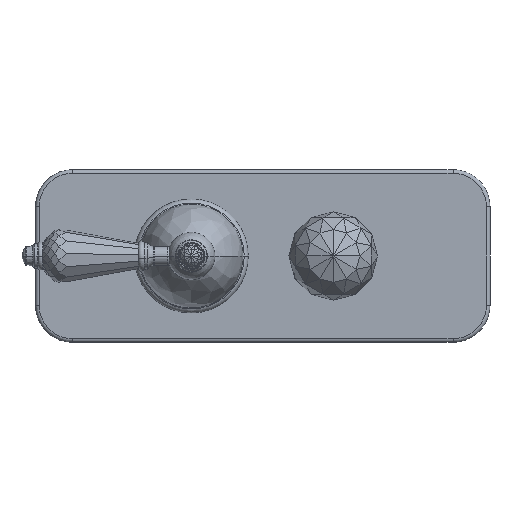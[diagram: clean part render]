
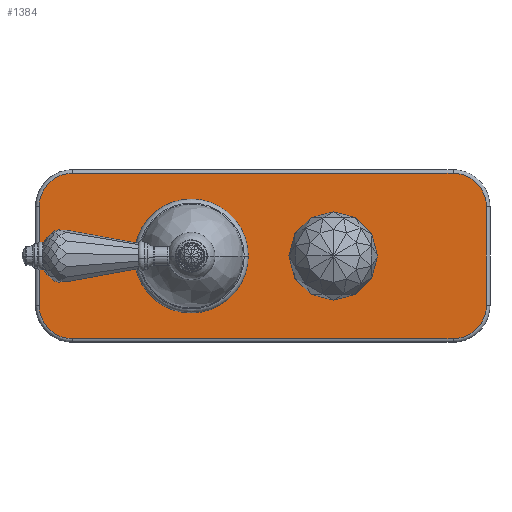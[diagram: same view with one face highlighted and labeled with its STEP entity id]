
A CAD part, left-side view. The second image highlights one B-rep face of the part: STEP entity #1384.
In plain terms, the highlighted planar face has unit normal (-1, 0, 0).
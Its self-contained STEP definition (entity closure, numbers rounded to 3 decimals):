
#303=CARTESIAN_POINT('',(-6.,108.,-28.));
#304=DIRECTION('',(-1.,0.,0.));
#305=DIRECTION('',(0.,1.,0.));
#306=AXIS2_PLACEMENT_3D('',#303,#304,#305);
#308=DIRECTION('',(0.,0.,-1.));
#309=VECTOR('',#308,56.);
#310=CARTESIAN_POINT('',(-6.,127.,28.));
#311=LINE('',#310,#309);
#312=CARTESIAN_POINT('',(-6.,108.,28.));
#313=DIRECTION('',(-1.,0.,0.));
#314=DIRECTION('',(0.,0.,1.));
#315=AXIS2_PLACEMENT_3D('',#312,#313,#314);
#317=DIRECTION('',(0.,1.,0.));
#318=VECTOR('',#317,216.);
#319=CARTESIAN_POINT('',(-6.,-108.,47.));
#320=LINE('',#319,#318);
#321=CARTESIAN_POINT('',(-6.,-108.,28.));
#322=DIRECTION('',(-1.,0.,0.));
#323=DIRECTION('',(0.,-1.,0.));
#324=AXIS2_PLACEMENT_3D('',#321,#322,#323);
#326=DIRECTION('',(0.,0.,1.));
#327=VECTOR('',#326,56.);
#328=CARTESIAN_POINT('',(-6.,-127.,-28.));
#329=LINE('',#328,#327);
#330=CARTESIAN_POINT('',(-6.,-108.,-28.));
#331=DIRECTION('',(-1.,0.,0.));
#332=DIRECTION('',(0.,0.,-1.));
#333=AXIS2_PLACEMENT_3D('',#330,#331,#332);
#335=DIRECTION('',(0.,-1.,0.));
#336=VECTOR('',#335,216.);
#337=CARTESIAN_POINT('',(-6.,108.,-47.));
#338=LINE('',#337,#336);
#339=CARTESIAN_POINT('',(-6.,40.,0.));
#340=DIRECTION('',(1.,0.,0.));
#341=DIRECTION('',(0.,0.,1.));
#342=AXIS2_PLACEMENT_3D('',#339,#340,#341);
#344=CARTESIAN_POINT('',(-6.,40.,0.));
#345=DIRECTION('',(1.,0.,0.));
#346=DIRECTION('',(0.,0.,-1.));
#347=AXIS2_PLACEMENT_3D('',#344,#345,#346);
#349=CARTESIAN_POINT('',(-6.,-40.,0.));
#350=DIRECTION('',(1.,0.,0.));
#351=DIRECTION('',(0.,0.,1.));
#352=AXIS2_PLACEMENT_3D('',#349,#350,#351);
#354=CARTESIAN_POINT('',(-6.,-40.,0.));
#355=DIRECTION('',(1.,0.,0.));
#356=DIRECTION('',(0.,0.,-1.));
#357=AXIS2_PLACEMENT_3D('',#354,#355,#356);
#777=CARTESIAN_POINT('',(-6.,40.,24.3));
#778=CARTESIAN_POINT('',(-6.,40.,-24.3));
#779=VERTEX_POINT('',#777);
#780=VERTEX_POINT('',#778);
#809=CARTESIAN_POINT('',(-6.,-40.,20.7));
#810=CARTESIAN_POINT('',(-6.,-40.,-20.7));
#811=VERTEX_POINT('',#809);
#812=VERTEX_POINT('',#810);
#905=CARTESIAN_POINT('',(-6.,127.,-28.));
#906=CARTESIAN_POINT('',(-6.,108.,-47.));
#907=VERTEX_POINT('',#905);
#908=VERTEX_POINT('',#906);
#913=CARTESIAN_POINT('',(-6.,-108.,-47.));
#914=VERTEX_POINT('',#913);
#917=CARTESIAN_POINT('',(-6.,-127.,-28.));
#918=VERTEX_POINT('',#917);
#921=CARTESIAN_POINT('',(-6.,-127.,28.));
#922=VERTEX_POINT('',#921);
#925=CARTESIAN_POINT('',(-6.,-108.,47.));
#926=VERTEX_POINT('',#925);
#929=CARTESIAN_POINT('',(-6.,108.,47.));
#930=VERTEX_POINT('',#929);
#933=CARTESIAN_POINT('',(-6.,127.,28.));
#934=VERTEX_POINT('',#933);
#1350=CARTESIAN_POINT('',(-6.,0.,0.));
#1351=DIRECTION('',(-1.,0.,0.));
#1352=DIRECTION('',(0.,-1.,0.));
#1353=AXIS2_PLACEMENT_3D('',#1350,#1351,#1352);
#1354=PLANE('',#1353);
#1356=ORIENTED_EDGE('',*,*,#1355,.F.);
#1358=ORIENTED_EDGE('',*,*,#1357,.F.);
#1360=ORIENTED_EDGE('',*,*,#1359,.F.);
#1362=ORIENTED_EDGE('',*,*,#1361,.F.);
#1364=ORIENTED_EDGE('',*,*,#1363,.F.);
#1366=ORIENTED_EDGE('',*,*,#1365,.F.);
#1367=ORIENTED_EDGE('',*,*,#1340,.F.);
#1369=ORIENTED_EDGE('',*,*,#1368,.F.);
#1370=EDGE_LOOP('',(#1356,#1358,#1360,#1362,#1364,#1366,#1367,#1369));
#1371=FACE_OUTER_BOUND('',#1370,.F.);
#1373=ORIENTED_EDGE('',*,*,#1372,.F.);
#1375=ORIENTED_EDGE('',*,*,#1374,.F.);
#1376=EDGE_LOOP('',(#1373,#1375));
#1377=FACE_BOUND('',#1376,.F.);
#1379=ORIENTED_EDGE('',*,*,#1378,.F.);
#1381=ORIENTED_EDGE('',*,*,#1380,.F.);
#1382=EDGE_LOOP('',(#1379,#1381));
#1383=FACE_BOUND('',#1382,.F.);
#1384=ADVANCED_FACE('',(#1371,#1377,#1383),#1354,.T.);
#307=CIRCLE('',#306,19.);
#316=CIRCLE('',#315,19.);
#325=CIRCLE('',#324,19.);
#334=CIRCLE('',#333,19.);
#343=CIRCLE('',#342,24.3);
#348=CIRCLE('',#347,24.3);
#353=CIRCLE('',#352,20.7);
#358=CIRCLE('',#357,20.7);
#1340=EDGE_CURVE('',#914,#918,#334,.T.);
#1355=EDGE_CURVE('',#907,#908,#307,.T.);
#1357=EDGE_CURVE('',#934,#907,#311,.T.);
#1359=EDGE_CURVE('',#930,#934,#316,.T.);
#1361=EDGE_CURVE('',#926,#930,#320,.T.);
#1363=EDGE_CURVE('',#922,#926,#325,.T.);
#1365=EDGE_CURVE('',#918,#922,#329,.T.);
#1368=EDGE_CURVE('',#908,#914,#338,.T.);
#1372=EDGE_CURVE('',#779,#780,#343,.T.);
#1374=EDGE_CURVE('',#780,#779,#348,.T.);
#1378=EDGE_CURVE('',#811,#812,#353,.T.);
#1380=EDGE_CURVE('',#812,#811,#358,.T.);
